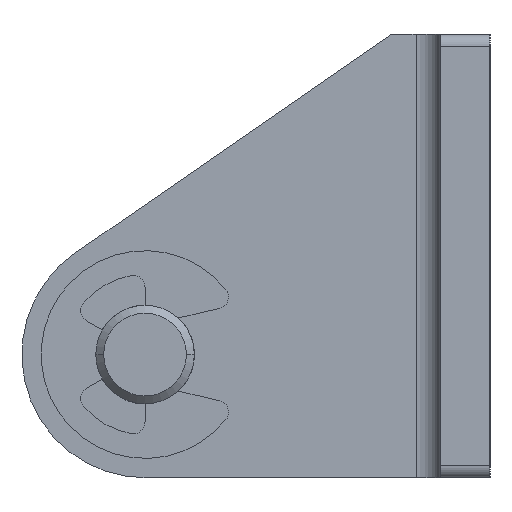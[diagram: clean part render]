
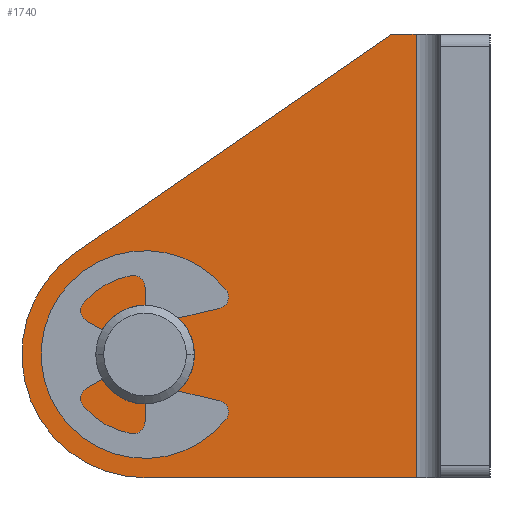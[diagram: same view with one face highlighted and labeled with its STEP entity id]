
A CAD part, left-side view. The second image highlights one B-rep face of the part: STEP entity #1740.
In plain terms, the highlighted planar face has unit normal (-1, 0, 0) as drawn and (1, 0, 0) by its records, which use the part's own axes.
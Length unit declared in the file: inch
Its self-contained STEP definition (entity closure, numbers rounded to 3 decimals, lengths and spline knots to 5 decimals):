
#1352=CARTESIAN_POINT('',(0.125,0.,0.));
#1353=DIRECTION('',(1.,0.,0.));
#1354=DIRECTION('',(0.,0.,1.));
#1355=AXIS2_PLACEMENT_3D('',#1352,#1353,#1354);
#1357=CARTESIAN_POINT('',(0.125,0.,0.));
#1358=DIRECTION('',(1.,0.,0.));
#1359=DIRECTION('',(0.,0.,-1.));
#1360=AXIS2_PLACEMENT_3D('',#1357,#1358,#1359);
#1362=DIRECTION('',(0.,0.,-1.));
#1363=VECTOR('',#1362,1.125);
#1364=CARTESIAN_POINT('',(0.125,-0.6875,0.3125));
#1365=LINE('',#1364,#1363);
#1366=DIRECTION('',(0.,1.,0.));
#1367=VECTOR('',#1366,0.6875);
#1368=CARTESIAN_POINT('',(0.125,-0.6875,0.3125));
#1369=LINE('',#1368,#1367);
#1370=CARTESIAN_POINT('',(0.125,0.,0.));
#1371=DIRECTION('',(-1.,0.,0.));
#1372=DIRECTION('',(0.,0.,1.));
#1373=AXIS2_PLACEMENT_3D('',#1370,#1371,#1372);
#1375=DIRECTION('',(0.,-0.822,-0.569));
#1376=VECTOR('',#1375,0.97628);
#1377=CARTESIAN_POINT('',(0.125,0.17782,-0.25698));
#1378=LINE('',#1377,#1376);
#1379=DIRECTION('',(0.,-1.,0.));
#1380=VECTOR('',#1379,0.0625);
#1381=CARTESIAN_POINT('',(0.125,-0.625,-0.8125));
#1382=LINE('',#1381,#1380);
#1593=CARTESIAN_POINT('',(0.125,0.,0.1255));
#1594=CARTESIAN_POINT('',(0.125,0.,-0.1255));
#1595=VERTEX_POINT('',#1593);
#1596=VERTEX_POINT('',#1594);
#1597=CARTESIAN_POINT('',(0.125,0.,0.3125));
#1598=CARTESIAN_POINT('',(0.125,0.17782,-0.25698));
#1599=VERTEX_POINT('',#1597);
#1600=VERTEX_POINT('',#1598);
#1601=CARTESIAN_POINT('',(0.125,-0.625,-0.8125));
#1602=VERTEX_POINT('',#1601);
#1651=CARTESIAN_POINT('',(0.125,-0.6875,0.3125));
#1652=CARTESIAN_POINT('',(0.125,-0.6875,-0.8125));
#1653=VERTEX_POINT('',#1651);
#1654=VERTEX_POINT('',#1652);
#1719=CARTESIAN_POINT('',(0.125,0.,0.));
#1720=DIRECTION('',(-1.,0.,0.));
#1721=DIRECTION('',(0.,0.,1.));
#1722=AXIS2_PLACEMENT_3D('',#1719,#1720,#1721);
#1723=PLANE('',#1722);
#1725=ORIENTED_EDGE('',*,*,#1724,.F.);
#1727=ORIENTED_EDGE('',*,*,#1726,.T.);
#1729=ORIENTED_EDGE('',*,*,#1728,.T.);
#1731=ORIENTED_EDGE('',*,*,#1730,.T.);
#1733=ORIENTED_EDGE('',*,*,#1732,.T.);
#1734=EDGE_LOOP('',(#1725,#1727,#1729,#1731,#1733));
#1735=FACE_OUTER_BOUND('',#1734,.F.);
#1736=ORIENTED_EDGE('',*,*,#1699,.T.);
#1737=ORIENTED_EDGE('',*,*,#1713,.T.);
#1738=EDGE_LOOP('',(#1736,#1737));
#1739=FACE_BOUND('',#1738,.F.);
#1740=ADVANCED_FACE('',(#1735,#1739),#1723,.F.);
#1356=CIRCLE('',#1355,0.1255);
#1361=CIRCLE('',#1360,0.1255);
#1374=CIRCLE('',#1373,0.3125);
#1699=EDGE_CURVE('',#1595,#1596,#1356,.T.);
#1713=EDGE_CURVE('',#1596,#1595,#1361,.T.);
#1724=EDGE_CURVE('',#1653,#1654,#1365,.T.);
#1726=EDGE_CURVE('',#1653,#1599,#1369,.T.);
#1728=EDGE_CURVE('',#1599,#1600,#1374,.T.);
#1730=EDGE_CURVE('',#1600,#1602,#1378,.T.);
#1732=EDGE_CURVE('',#1602,#1654,#1382,.T.);
